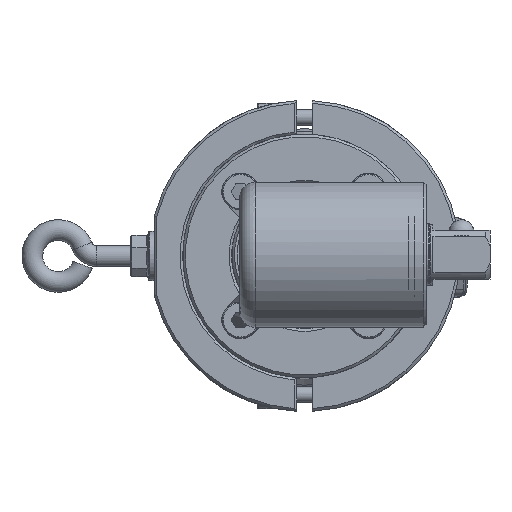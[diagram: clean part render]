
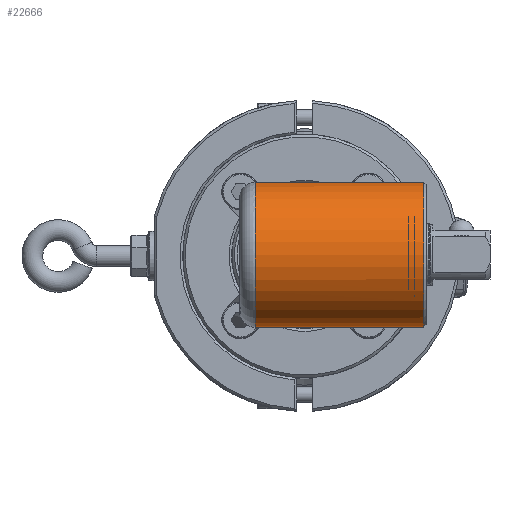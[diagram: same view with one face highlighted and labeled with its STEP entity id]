
A CAD part, top view. The second image highlights one B-rep face of the part: STEP entity #22666.
In plain terms, the highlighted cylindrical face has radius 14 mm (diameter 28 mm), a full revolution.
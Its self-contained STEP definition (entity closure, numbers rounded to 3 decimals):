
#74 = DIRECTION ( 'NONE',  ( 1., 0., 0. ) ) ;
#2809 = DIRECTION ( 'NONE',  ( -1., 0., 0. ) ) ;
#3592 = CARTESIAN_POINT ( 'NONE',  ( 13.15, -13.125, 136.128 ) ) ;
#5597 = CARTESIAN_POINT ( 'NONE',  ( -11.85, 0., 141. ) ) ;
#10413 = VERTEX_POINT ( 'NONE', #51888 ) ;
#13581 = ORIENTED_EDGE ( 'NONE', *, *, #77938, .T. ) ;
#17059 = VERTEX_POINT ( 'NONE', #60874 ) ;
#19613 = DIRECTION ( 'NONE',  ( -1., 0., 0. ) ) ;
#20915 = VERTEX_POINT ( 'NONE', #91529 ) ;
#21131 = FACE_OUTER_BOUND ( 'NONE', #81379, .T. ) ;
#22421 = ORIENTED_EDGE ( 'NONE', *, *, #88960, .T. ) ;
#22539 = LINE ( 'NONE', #37132, #59350 ) ;
#22666 = ADVANCED_FACE ( 'NONE', ( #49831, #21131 ), #27302, .T. ) ;
#23093 = DIRECTION ( 'NONE',  ( 0., 1., 0. ) ) ;
#23888 = EDGE_CURVE ( 'NONE', #72115, #64905, #61501, .T. ) ;
#23909 = AXIS2_PLACEMENT_3D ( 'NONE', #54934, #19613, #41302 ) ;
#27247 = ORIENTED_EDGE ( 'NONE', *, *, #45545, .F. ) ;
#27302 = CYLINDRICAL_SURFACE ( 'NONE', #82864, 14. ) ;
#28356 = LINE ( 'NONE', #49560, #76597 ) ;
#29123 = DIRECTION ( 'NONE',  ( 0., 1., 0. ) ) ;
#30909 = EDGE_CURVE ( 'NONE', #20915, #64905, #22539, .T. ) ;
#35346 = ORIENTED_EDGE ( 'NONE', *, *, #23888, .F. ) ;
#37132 = CARTESIAN_POINT ( 'NONE',  ( -11.85, -13.125, 136.128 ) ) ;
#37186 = CIRCLE ( 'NONE', #80796, 14. ) ;
#40880 = DIRECTION ( 'NONE',  ( 1., 0., 0. ) ) ;
#41302 = DIRECTION ( 'NONE',  ( 0., 0., 1. ) ) ;
#45116 = DIRECTION ( 'NONE',  ( 1., 0., 0. ) ) ;
#45545 = EDGE_CURVE ( 'NONE', #10413, #72115, #28356, .T. ) ;
#47701 = CIRCLE ( 'NONE', #68812, 14. ) ;
#49560 = CARTESIAN_POINT ( 'NONE',  ( -11.85, 13.125, 136.128 ) ) ;
#49831 = FACE_OUTER_BOUND ( 'NONE', #51474, .T. ) ;
#51474 = EDGE_LOOP ( 'NONE', ( #27247, #13581, #61295, #35346 ) ) ;
#51888 = CARTESIAN_POINT ( 'NONE',  ( -8.85, 13.125, 136.128 ) ) ;
#54934 = CARTESIAN_POINT ( 'NONE',  ( 13.15, 0., 141. ) ) ;
#59350 = VECTOR ( 'NONE', #45116, 1000. ) ;
#60874 = CARTESIAN_POINT ( 'NONE',  ( 23.65, 14., 141. ) ) ;
#61295 = ORIENTED_EDGE ( 'NONE', *, *, #30909, .T. ) ;
#61501 = CIRCLE ( 'NONE', #23909, 14. ) ;
#64905 = VERTEX_POINT ( 'NONE', #3592 ) ;
#68812 = AXIS2_PLACEMENT_3D ( 'NONE', #77578, #40880, #91659 ) ;
#71972 = DIRECTION ( 'NONE',  ( -1., 0., 0. ) ) ;
#72115 = VERTEX_POINT ( 'NONE', #92909 ) ;
#76597 = VECTOR ( 'NONE', #74, 1000. ) ;
#77578 = CARTESIAN_POINT ( 'NONE',  ( -8.85, 0., 141. ) ) ;
#77938 = EDGE_CURVE ( 'NONE', #10413, #20915, #47701, .T. ) ;
#80796 = AXIS2_PLACEMENT_3D ( 'NONE', #88500, #2809, #23093 ) ;
#81379 = EDGE_LOOP ( 'NONE', ( #22421 ) ) ;
#82864 = AXIS2_PLACEMENT_3D ( 'NONE', #5597, #71972, #29123 ) ;
#88500 = CARTESIAN_POINT ( 'NONE',  ( 23.65, 0., 141. ) ) ;
#88960 = EDGE_CURVE ( 'NONE', #17059, #17059, #37186, .T. ) ;
#91529 = CARTESIAN_POINT ( 'NONE',  ( -8.85, -13.125, 136.128 ) ) ;
#91659 = DIRECTION ( 'NONE',  ( 0., -1., 0. ) ) ;
#92909 = CARTESIAN_POINT ( 'NONE',  ( 13.15, 13.125, 136.128 ) ) ;
